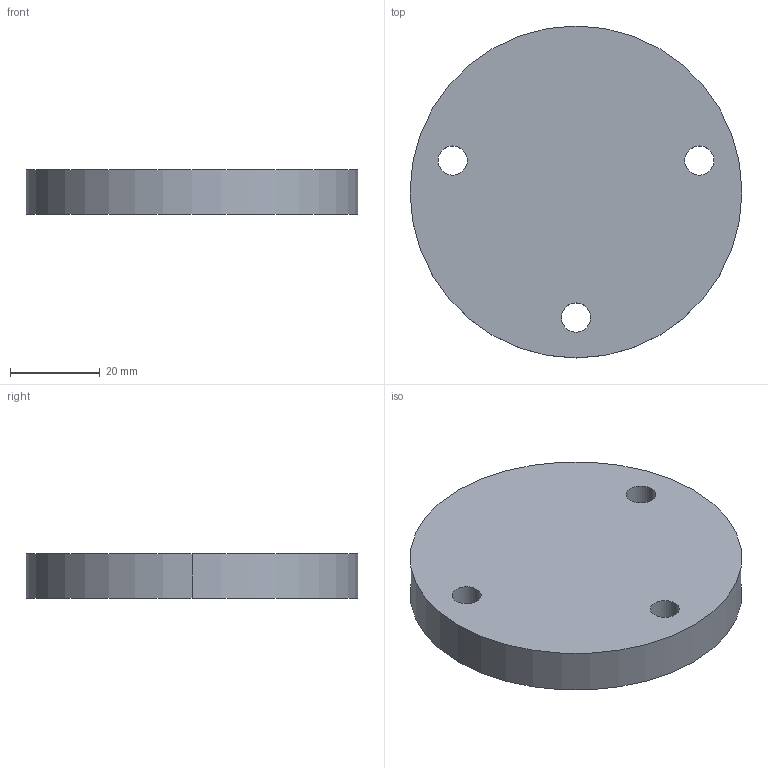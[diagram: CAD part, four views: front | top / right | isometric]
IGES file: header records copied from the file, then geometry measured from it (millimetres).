
Start section:  PTC IGES file: DFB-170S.igs
Global section: file name: DFB-170S.igs; native system: Creo Parametric by Parametric Technology Corporation; preprocessor: 2012360; author: xeon_3; organization: Unknown; date: 20131118.141146; units: millimetre
Bounding box: 74 x 74 x 10 mm (x, y, z)
Volume: 42012.9 mm3; surface area: 11340 mm2
Topology: 1 solids, 1 shells, 10 faces, 24 edges, 16 vertices
Faces by surface type: revolution 8, bspline 2
